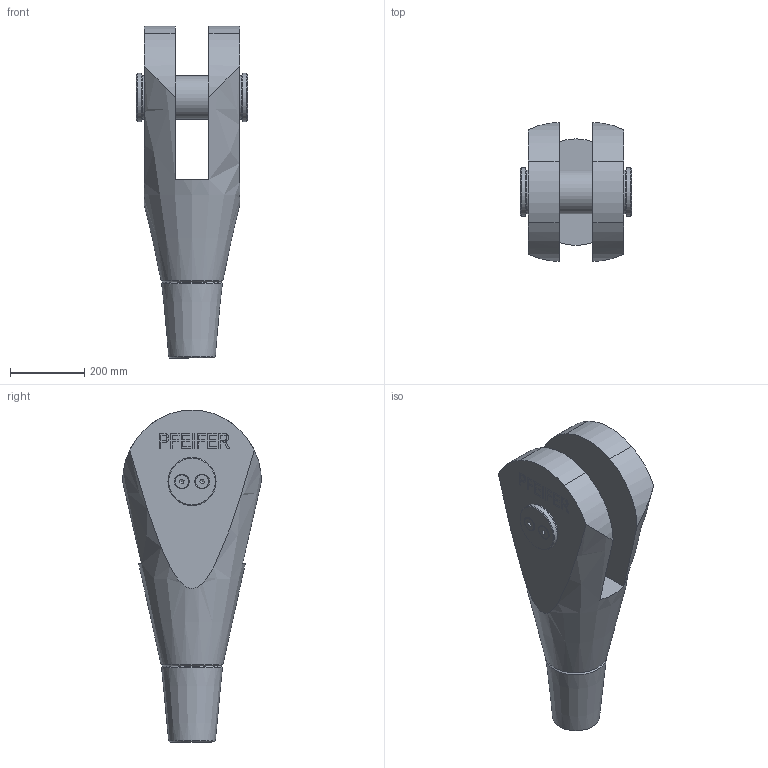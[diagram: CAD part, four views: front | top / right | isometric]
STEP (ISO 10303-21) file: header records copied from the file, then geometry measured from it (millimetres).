
FILE_DESCRIPTION(/* description */ (''),/* implementation_level */ '2;1');
FILE_NAME(/* name */ 'C:\Vault_WS\Designs\520-110-GAK.stp',/* time_stamp */ '2020-06-25T08:06:59+02:00',/* author */ ('schwarz'),/* organization */ (''),/* preprocessor_version */ 'ST-DEVELOPER v16.1',/* originating_system */ 'Autodesk Inventor 2016',/* authorisation */ '');
FILE_SCHEMA (('AUTOMOTIVE_DESIGN { 1 0 10303 214 3 1 1 }'));
Length unit declared in the file: centimetre
Products named in the file (1): 520-110-GAK-KMU-Kunde
Bounding box: 302 x 374.92 x 896 mm (x, y, z)
Volume: 34268361.6 mm3; surface area: 1212500.5 mm2
Topology: 2 solids, 10 shells, 241 faces, 617 edges, 408 vertices
Faces by surface type: plane 163, cone 29, cylinder 28, bspline 21
Full cylindrical faces by diameter (mm): 17.294 x4, 20 x4, 22 x4, 36.05 x4, 114 x1, 118 x1, 121 x2, 130 x2
Entity records: 7096 total; most frequent: CARTESIAN_POINT 1523, ORIENTED_EDGE 1070, DIRECTION 976, EDGE_CURVE 535, LINE 384, VECTOR 384, VERTEX_POINT 377, EDGE_LOOP 316
